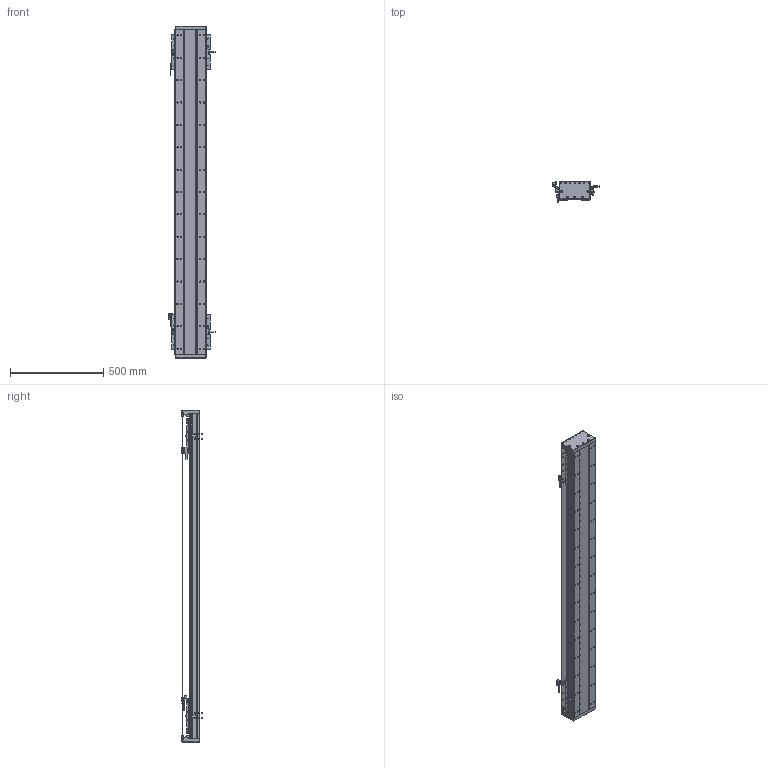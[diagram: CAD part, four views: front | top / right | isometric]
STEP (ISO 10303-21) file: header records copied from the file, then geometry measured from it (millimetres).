
FILE_DESCRIPTION (( 'STEP AP203' ), '1' );
FILE_NAME ('DA-C165-2-C2-T1280-C010-0.2 直线电机.STEP', '2023-05-11T08:21:21', ( '微软用户' ), ( '微软中国' ), 'SwSTEP 2.0', 'SolidWorks 2019', '' );
FILE_SCHEMA (( 'CONFIG_CONTROL_DESIGN' ));
Length unit declared in the file: millimetre
Products named in the file (22): 复件 DMA-010-0.2 读数头^DA-C165-C2-T-C010-0.2-N 直线电机; 葩璃 PM-T45^DA-C165-C2-T-C010-0.2-N 眻盄萇儂; 复件 DA165-GD-DG-H-00 端盖^复件 CU165钢带组件_DA-C165-C2-T-C010-0.2-N 直线电机; 复件 CU165钢带组件^DA-C165-C2-T-C010-0.2-N 直线电机; 珨极趙賑雄怢啣wf-C2; 复件 66338-1000-006-00 光电感应块^DA-C165-C2-T-C010-0.2-N 直线电机; 复件 六角薄螺母 M3^DA-C165-C2-T-C010-0.2-N 直线电机_GB_FASTENER_NUT_STNAB M3-C; 葩璃 PM-Y45^DA-C165-C2-T-C010-0.2-N 眻盄萇儂; IU-CU165-L 菁釱絳寢; 复件 XD-U-02L 磁栅尺^DA-C165-C2-T-C010-0.2-N 直线电机_T; 复件 DA165-GDYK-00 钢带压块^复件 CU165钢带组件_DA-C165-C2-T-C010-0.2-N 直线电机; 复件 CKM02-W075-C1C2-TP-3.0 一体电机-C2^DA-C165-C2-T-C010-0.2-N 直线电机; DA-C165-2-C2-T1280-C010-0.2 眻盄萇儂; 复件 DA95-HXJ-00 缓冲橡胶^DA-C165-C2-T-C010-0.2-N 直线电机; 复件 DKW-HXJ-JY-00 缓冲橡胶^DA-C165-C2-T-C010-0.2-N 直线电机; IU-CU165-L-00 菁釱_L1740; 复件 DA165-GDLK-00 钢带拉块^复件 CU165钢带组件_DA-C165-C2-T-C010-0.2-N 直线电机; 复件 DA126-GYP-ZJ-00 中间光电感应片^DA-C165-C2-T-C010-0.2-N 直线电机; 复件 DA165-GYP-00 光电感应片^DA-C165-C2-T-C010-0.2-N 直线电机; 葩璃 DA95-GT-T-00^IU-CU165-L 菁釱絳寢_T; 复件 DA165-GD-1860-002-00 钢带盖板^复件 CU165钢带组件_DA-C165-C2-T-C010-0.2-N 直线电机; 葩璃 CKM01-W075-TRL^DA-C165-C2-T-C010-0.2-N 眻盄萇儂
Assembly tree (43 placements, depth 3):
  DA-C165-2-C2-T1280-C010-0.2 眻盄萇儂
    IU-CU165-L 菁釱絳寢
      IU-CU165-L-00 菁釱_L1740
      葩璃 DA95-GT-T-00^IU-CU165-L 菁釱絳寢_T  x4
    复件 XD-U-02L 磁栅尺^DA-C165-C2-T-C010-0.2-N 直线电机_T
    葩璃 PM-T45^DA-C165-C2-T-C010-0.2-N 眻盄萇儂  x4
    葩璃 CKM01-W075-TRL^DA-C165-C2-T-C010-0.2-N 眻盄萇儂
    复件 CU165钢带组件^DA-C165-C2-T-C010-0.2-N 直线电机
      复件 DA165-GD-DG-H-00 端盖^复件 CU165钢带组件_DA-C165-C2-T-C010-0.2-N 直线电机  x2
      复件 DA165-GDYK-00 钢带压块^复件 CU165钢带组件_DA-C165-C2-T-C010-0.2-N 直线电机  x2
      复件 DA165-GD-1860-002-00 钢带盖板^复件 CU165钢带组件_DA-C165-C2-T-C010-0.2-N 直线电机
      复件 DA165-GDLK-00 钢带拉块^复件 CU165钢带组件_DA-C165-C2-T-C010-0.2-N 直线电机  x2
    复件 DA95-HXJ-00 缓冲橡胶^DA-C165-C2-T-C010-0.2-N 直线电机  x4
    复件 CKM02-W075-C1C2-TP-3.0 一体电机-C2^DA-C165-C2-T-C010-0.2-N 直线电机  x2
    复件 DMA-010-0.2 读数头^DA-C165-C2-T-C010-0.2-N 直线电机  x2
    复件 DA165-GYP-00 光电感应片^DA-C165-C2-T-C010-0.2-N 直线电机  x2
    复件 66338-1000-006-00 光电感应块^DA-C165-C2-T-C010-0.2-N 直线电机
    葩璃 PM-Y45^DA-C165-C2-T-C010-0.2-N 眻盄萇儂
    复件 DA126-GYP-ZJ-00 中间光电感应片^DA-C165-C2-T-C010-0.2-N 直线电机
    复件 DKW-HXJ-JY-00 缓冲橡胶^DA-C165-C2-T-C010-0.2-N 直线电机  x2
    复件 六角薄螺母 M3^DA-C165-C2-T-C010-0.2-N 直线电机_GB_FASTENER_NUT_STNAB M3-C  x6
    珨极趙賑雄怢啣wf-C2  x2
Bounding box: 247.2 x 109.45 x 1780 mm (x, y, z)
Volume: 9187993.4 mm3; surface area: 2783198.3 mm2
Topology: 116 solids, 116 shells, 3681 faces, 10290 edges, 6672 vertices
Faces by surface type: cylinder 1904, plane 1433, cone 256, torus 80, sphere 8
Entity records: 115264 total; most frequent: CARTESIAN_POINT 28861, ORIENTED_EDGE 17600, DIRECTION 17420, EDGE_CURVE 8800, AXIS2_PLACEMENT_3D 6562, VERTEX_POINT 5715, LINE 4296, VECTOR 4296
